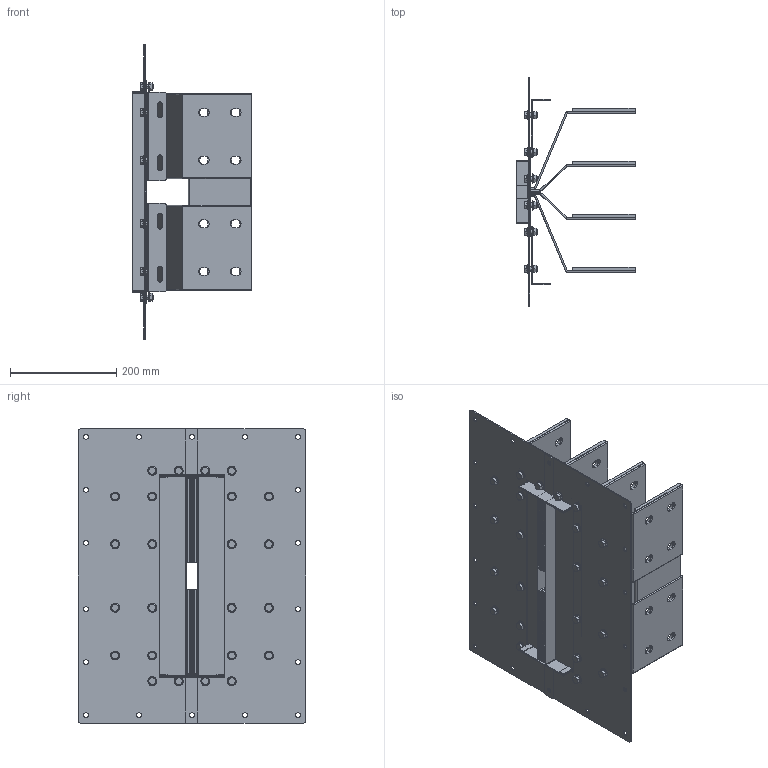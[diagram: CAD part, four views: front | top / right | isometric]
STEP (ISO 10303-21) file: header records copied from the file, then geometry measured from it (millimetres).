
FILE_DESCRIPTION(('CATIA V5 STEP','CAx-IF Rec.Pracs.--- Model Styling and Organization---1.5--- 2016-08-15','CAx-IF Rec.Pracs.---Supplemental Geometry---1.0---2011-11-01','CAx-IF Rec.Pracs.--- Composite Materials ---1.1---2010-07-15'),'2;1');
FILE_NAME('K:\COSCN 2011\32372311_RiduzioneSezioniBarre\03_Studio\__Modelli semplificati\XCP_UB semplificati per studi\XCP-S_UB_4C_Pe_STD_Assieme\Cu\XCP-S_UB_4C_Pe_D_Assieme - 3200A Cu\XCP-S_UB_4C_Pe_D_Assieme - 3200A Cu.stp','2025-05-12T13:16:13+00:00',('Utente Bticino'),('Bticino S.p.A.'),'CATIA Version 5-6 Release 2020 SP5','CATIA V5 STEP AP214 v2','none');
FILE_SCHEMA(('AUTOMOTIVE_DESIGN { 1 0 10303 214 1 1 1 1 }'));
Length unit declared in the file: millimetre
Products named in the file (8): XCP-S_UB_4C_Pe_D_Assieme - 3200A Cu; XCP-S_UB_4C_Pe_D_PaccoBarre_3200 Cu; XCP-S_UB_4C_Pe_D_Lamiere_3200A Cu; XCP-S_UB_4C_Pe_D_PaccoBarre_3200 Cu_1; XCP-S_UB_4C_Pe_D - 3200A Cu_Bandelle parallelo; Ass Vite+dado M8; Steel hex flanged SCREW M12x16; Steel hex flanged NUT M8
Assembly tree (30 placements, depth 3):
  XCP-S_UB_4C_Pe_D_Assieme - 3200A Cu
    XCP-S_UB_4C_Pe_D_PaccoBarre_3200 Cu
    XCP-S_UB_4C_Pe_D_Lamiere_3200A Cu
    XCP-S_UB_4C_Pe_D_PaccoBarre_3200 Cu_1
    XCP-S_UB_4C_Pe_D - 3200A Cu_Bandelle parallelo
    Ass Vite+dado M8  x24
      Steel hex flanged SCREW M12x16
      Steel hex flanged NUT M8
Bounding box: 225 x 430 x 555 mm (x, y, z)
Volume: 2936207.6 mm3; surface area: 1921299.4 mm2
Topology: 70 solids, 70 shells, 1868 faces, 4636 edges, 2956 vertices
Faces by surface type: plane 792, cylinder 644, cone 192, bspline 192, torus 48
Entity records: 25586 total; most frequent: CARTESIAN_POINT 5512, ORIENTED_EDGE 4396, DIRECTION 3280, EDGE_CURVE 2198, VERTEX_POINT 1438, AXIS2_PLACEMENT_3D 1354, VECTOR 1344, LINE 1344
